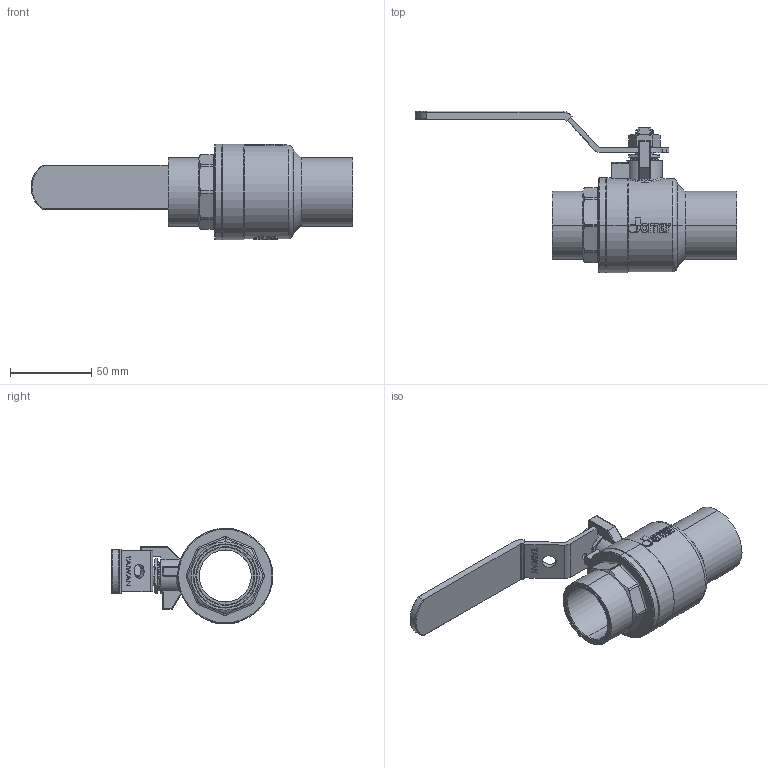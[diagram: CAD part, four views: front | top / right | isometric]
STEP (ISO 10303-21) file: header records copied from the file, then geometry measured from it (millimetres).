
FILE_DESCRIPTION (( 'STEP AP203' ), '1' );
FILE_NAME ('ABL736-無掛鎖-1.25''''CxC球閥體-CxC組合.STEP', '2026-04-13T03:50:08', ( '' ), ( '' ), 'SwSTEP 2.0', 'SolidWorks 2018', '' );
FILE_SCHEMA (( 'CONFIG_CONTROL_DESIGN' ));
Length unit declared in the file: millimetre
Products named in the file (13): ABL736-無掛鎖-1.25''''CxC球閥體-CxC組合; EBL706; GBL604; CBL235-1.25''''通用把手; RBL706; TBL267A (TBL106); NGV109; BBL736-1.25''''CxC球閥體-有鉛-端面插溝-無LF; DN32-黃色膠套-S200CSS; DN32-CBL736-把手組合-無掛鎖(黃色S膠套); BBL736A-1.25''''JOMAR球閥CxC帽蓋-有鉛-端面插溝; EBL306; EBL706A
Assembly tree (13 placements, depth 3):
  ABL736-無掛鎖-1.25''''CxC球閥體-CxC組合
    BBL736-1.25''''CxC球閥體-有鉛-端面插溝-無LF
    GBL604
    RBL706
    TBL267A (TBL106)
    EBL706A
    EBL706
    EBL306  x2
    NGV109
    BBL736A-1.25''''JOMAR球閥CxC帽蓋-有鉛-端面插溝
    DN32-CBL736-把手組合-無掛鎖(黃色S膠套)
      CBL235-1.25''''通用把手
      DN32-黃色膠套-S200CSS
Bounding box: 197.9 x 99.36 x 59 mm (x, y, z)
Volume: 136405.1 mm3; surface area: 84091.8 mm2
Topology: 12 solids, 12 shells, 1454 faces, 3838 edges, 2514 vertices
Faces by surface type: plane 596, bspline 481, cylinder 257, cone 75, torus 31, sphere 14
Entity records: 82157 total; most frequent: CARTESIAN_POINT 48926, ORIENTED_EDGE 7600, DIRECTION 4905, EDGE_CURVE 3800, VERTEX_POINT 2494, VECTOR 1959, LINE 1959, EDGE_LOOP 1580
